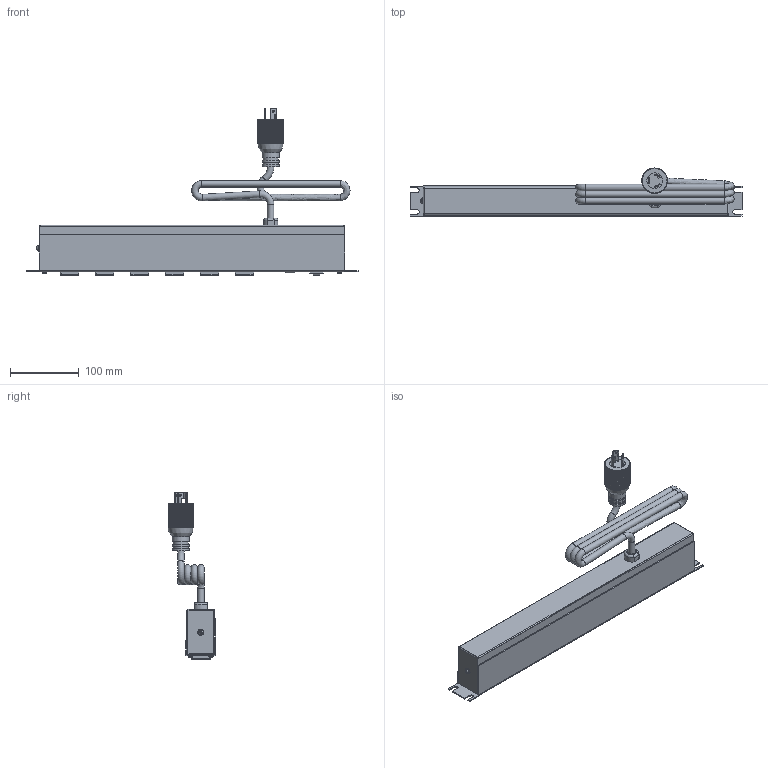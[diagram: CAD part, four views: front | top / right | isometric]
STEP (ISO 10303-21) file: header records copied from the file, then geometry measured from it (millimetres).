
FILE_DESCRIPTION((''),'2;1');
FILE_NAME('E:\Dutton\Manufacturing\drawings\Updated 2009\POWER BARS\1582 RA series\STEP''s\1582T6C1BKRA.stp','2010-01-11T06:54:51',('tfoster'),(''),'Autodesk Inventor 2010','Autodesk Inventor 2010','');
FILE_SCHEMA(('AUTOMOTIVE_DESIGN { 1 0 10303 214 1 1 1 1 }'));
Products named in the file (10): 1582T6C1BKRA; 1582 Front plate; 1582 Back Plate; #6 - 0.375 Type A screw; toothwasher; round head 1-way 8-32 x 0.5 screw; Reset Switch; Twist Cored 2; Receptacle; Pilot light
Assembly tree (17 placements, depth 2):
  1582T6C1BKRA
    1582 Front plate
    1582 Back Plate
    #6 - 0.375 Type A screw  x4
    toothwasher
    round head 1-way 8-32 x 0.5 screw
    Reset Switch
    Twist Cored 2
    Receptacle  x6
    Pilot light
Bounding box: 482.6 x 69.48 x 242.61 mm (x, y, z)
Volume: 393296.7 mm3; surface area: 307453.6 mm2
Topology: 17 solids, 17 shells, 1100 faces, 3125 edges, 2068 vertices
Faces by surface type: plane 756, cylinder 205, bspline 72, sphere 29, cone 23, torus 15
Full cylindrical faces by diameter (mm): 1.803 x3, 1.905 x2, 2.997 x4, 3.175 x3, 4.3 x1, 4.801 x1, 5.563 x4, 7.849 x1, 9.5 x5, 11 x1, 21.59 x2, 22.86 x1, 24.765 x3
Entity records: 27489 total; most frequent: CARTESIAN_POINT 8165, ORIENTED_EDGE 4106, DIRECTION 3683, EDGE_CURVE 2053, VERTEX_POINT 1398, VECTOR 1355, LINE 1355, AXIS2_PLACEMENT_3D 1164
